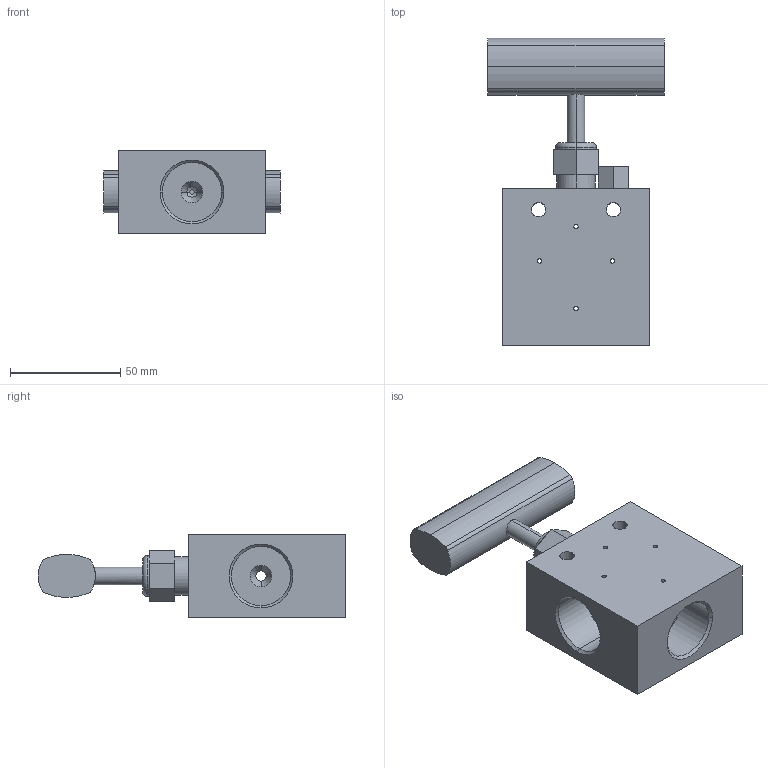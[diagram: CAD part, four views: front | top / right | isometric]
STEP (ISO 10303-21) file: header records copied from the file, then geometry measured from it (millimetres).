
FILE_DESCRIPTION (( 'STEP AP203' ), '1' );
FILE_NAME ('NV60VS09-O-00-00.STEP', '2023-02-22T02:06:01', ( 'USER' ), ( '' ), 'SwSTEP 2.0', 'SolidWorks 2020', '' );
FILE_SCHEMA (( 'CONFIG_CONTROL_DESIGN' ));
Length unit declared in the file: millimetre
Products named in the file (1): NV60VS09-O-00-00
Bounding box: 80 x 139.66 x 38 mm (x, y, z)
Volume: 189295.9 mm3; surface area: 36540.1 mm2
Topology: 1 solids, 1 shells, 102 faces, 257 edges, 160 vertices
Faces by surface type: cylinder 53, plane 29, cone 18, torus 2
Entity records: 3640 total; most frequent: CARTESIAN_POINT 1032, DIRECTION 539, ORIENTED_EDGE 514, EDGE_CURVE 257, AXIS2_PLACEMENT_3D 205, VERTEX_POINT 160, EDGE_LOOP 131, LINE 129
